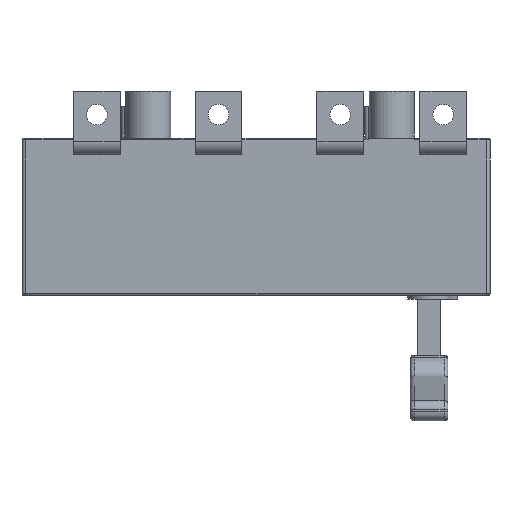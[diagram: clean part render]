
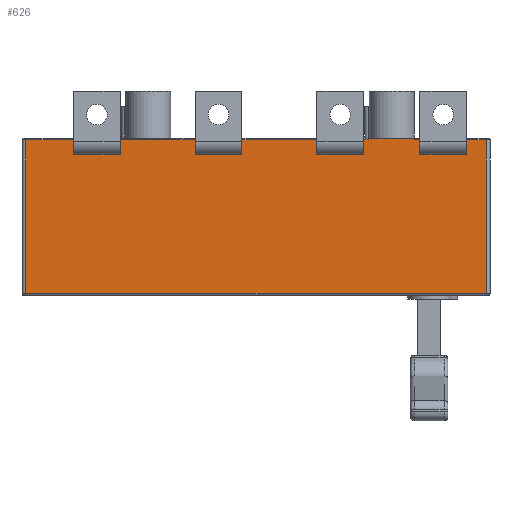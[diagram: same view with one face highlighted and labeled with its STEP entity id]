
A CAD part, front view. The second image highlights one B-rep face of the part: STEP entity #626.
In plain terms, the highlighted planar face has unit normal (0, -1, 0).
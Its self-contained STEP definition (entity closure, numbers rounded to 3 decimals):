
#190=PLANE('',#5526);
#626=ADVANCED_FACE('',(#958),#190,.T.);
#958=FACE_OUTER_BOUND('',#1321,.T.);
#1321=EDGE_LOOP('',(#2874,#2875,#2876,#2877,#2878,#2879,#2880,#2881,#2882,
#2883,#2884,#2885,#2886,#2887,#2888,#2889,#2890,#2891,#2892,#2893,#2894,
#2895,#2896,#2897,#2898,#2899,#2900,#2901,#2902,#2903,#2904,#2905,#2906,
#2907));
#2874=ORIENTED_EDGE('',*,*,#4133,.T.);
#2875=ORIENTED_EDGE('',*,*,#3858,.T.);
#2876=ORIENTED_EDGE('',*,*,#3619,.F.);
#2877=ORIENTED_EDGE('',*,*,#4125,.T.);
#2878=ORIENTED_EDGE('',*,*,#3949,.F.);
#2879=ORIENTED_EDGE('',*,*,#3939,.T.);
#2880=ORIENTED_EDGE('',*,*,#3948,.T.);
#2881=ORIENTED_EDGE('',*,*,#4104,.T.);
#2882=ORIENTED_EDGE('',*,*,#3489,.F.);
#2883=ORIENTED_EDGE('',*,*,#3874,.F.);
#2884=ORIENTED_EDGE('',*,*,#4134,.T.);
#2885=ORIENTED_EDGE('',*,*,#3875,.T.);
#2886=ORIENTED_EDGE('',*,*,#3487,.F.);
#2887=ORIENTED_EDGE('',*,*,#4105,.T.);
#2888=ORIENTED_EDGE('',*,*,#4075,.T.);
#2889=ORIENTED_EDGE('',*,*,#4068,.F.);
#2890=ORIENTED_EDGE('',*,*,#4004,.F.);
#2891=ORIENTED_EDGE('',*,*,#4089,.T.);
#2892=ORIENTED_EDGE('',*,*,#4017,.T.);
#2893=ORIENTED_EDGE('',*,*,#4119,.T.);
#2894=ORIENTED_EDGE('',*,*,#3529,.T.);
#2895=ORIENTED_EDGE('',*,*,#4135,.F.);
#2896=ORIENTED_EDGE('',*,*,#3866,.T.);
#2897=ORIENTED_EDGE('',*,*,#4136,.T.);
#2898=ORIENTED_EDGE('',*,*,#3533,.T.);
#2899=ORIENTED_EDGE('',*,*,#4121,.T.);
#2900=ORIENTED_EDGE('',*,*,#3572,.F.);
#2901=ORIENTED_EDGE('',*,*,#3861,.F.);
#2902=ORIENTED_EDGE('',*,*,#4137,.T.);
#2903=ORIENTED_EDGE('',*,*,#3862,.T.);
#2904=ORIENTED_EDGE('',*,*,#3576,.F.);
#2905=ORIENTED_EDGE('',*,*,#4123,.T.);
#2906=ORIENTED_EDGE('',*,*,#3615,.F.);
#2907=ORIENTED_EDGE('',*,*,#3857,.F.);
#2998=VERTEX_POINT('',#7082);
#3001=VERTEX_POINT('',#7088);
#3021=VERTEX_POINT('',#7149);
#3023=VERTEX_POINT('',#7155);
#3029=VERTEX_POINT('',#7169);
#3031=VERTEX_POINT('',#7173);
#3053=VERTEX_POINT('',#7238);
#3055=VERTEX_POINT('',#7244);
#3061=VERTEX_POINT('',#7258);
#3064=VERTEX_POINT('',#7264);
#3085=VERTEX_POINT('',#7327);
#3087=VERTEX_POINT('',#7333);
#3093=VERTEX_POINT('',#7347);
#3096=VERTEX_POINT('',#7353);
#3117=VERTEX_POINT('',#7416);
#3119=VERTEX_POINT('',#7422);
#3273=VERTEX_POINT('',#7926);
#3274=VERTEX_POINT('',#7930);
#3275=VERTEX_POINT('',#7934);
#3276=VERTEX_POINT('',#7938);
#3277=VERTEX_POINT('',#7942);
#3278=VERTEX_POINT('',#7944);
#3283=VERTEX_POINT('',#7960);
#3284=VERTEX_POINT('',#7964);
#3310=VERTEX_POINT('',#8035);
#3317=VERTEX_POINT('',#8070);
#3327=VERTEX_POINT('',#8097);
#3331=VERTEX_POINT('',#8139);
#3380=VERTEX_POINT('',#8287);
#3381=VERTEX_POINT('',#8289);
#3388=VERTEX_POINT('',#8319);
#3391=VERTEX_POINT('',#8336);
#3426=VERTEX_POINT('',#8438);
#3429=VERTEX_POINT('',#8450);
#3487=EDGE_CURVE('',#3021,#3001,#4171,.T.);
#3489=EDGE_CURVE('',#2998,#3023,#4173,.T.);
#3529=EDGE_CURVE('',#3053,#3029,#4202,.T.);
#3533=EDGE_CURVE('',#3031,#3055,#4204,.T.);
#3572=EDGE_CURVE('',#3061,#3085,#4233,.T.);
#3576=EDGE_CURVE('',#3087,#3064,#4235,.T.);
#3615=EDGE_CURVE('',#3093,#3117,#4264,.T.);
#3619=EDGE_CURVE('',#3119,#3096,#4266,.T.);
#3857=EDGE_CURVE('',#3273,#3093,#4393,.T.);
#3858=EDGE_CURVE('',#3274,#3096,#4394,.T.);
#3861=EDGE_CURVE('',#3275,#3061,#4397,.T.);
#3862=EDGE_CURVE('',#3276,#3064,#4398,.T.);
#3866=EDGE_CURVE('',#3277,#3278,#4402,.T.);
#3874=EDGE_CURVE('',#3283,#2998,#4408,.T.);
#3875=EDGE_CURVE('',#3284,#3001,#4409,.T.);
#3939=EDGE_CURVE('',#3331,#3327,#4434,.T.);
#3948=EDGE_CURVE('',#3327,#3310,#4439,.T.);
#3949=EDGE_CURVE('',#3331,#3317,#4440,.T.);
#4004=EDGE_CURVE('',#3380,#3381,#4464,.T.);
#4017=EDGE_CURVE('',#3388,#3391,#4471,.T.);
#4068=EDGE_CURVE('',#3381,#3426,#4503,.T.);
#4075=EDGE_CURVE('',#3429,#3426,#4509,.T.);
#4089=EDGE_CURVE('',#3380,#3388,#4520,.T.);
#4104=EDGE_CURVE('',#3310,#3023,#4533,.T.);
#4105=EDGE_CURVE('',#3021,#3429,#4534,.T.);
#4119=EDGE_CURVE('',#3391,#3053,#4544,.T.);
#4121=EDGE_CURVE('',#3055,#3085,#4546,.T.);
#4123=EDGE_CURVE('',#3087,#3117,#4548,.T.);
#4125=EDGE_CURVE('',#3119,#3317,#4550,.T.);
#4133=EDGE_CURVE('',#3273,#3274,#4558,.T.);
#4134=EDGE_CURVE('',#3283,#3284,#4559,.T.);
#4135=EDGE_CURVE('',#3277,#3029,#4560,.T.);
#4136=EDGE_CURVE('',#3278,#3031,#4561,.T.);
#4137=EDGE_CURVE('',#3275,#3276,#4562,.T.);
#4171=LINE('',#7150,#4596);
#4173=LINE('',#7154,#4598);
#4202=LINE('',#7237,#4627);
#4204=LINE('',#7245,#4629);
#4233=LINE('',#7326,#4658);
#4235=LINE('',#7334,#4660);
#4264=LINE('',#7415,#4689);
#4266=LINE('',#7423,#4691);
#4393=LINE('',#7927,#4818);
#4394=LINE('',#7929,#4819);
#4397=LINE('',#7935,#4822);
#4398=LINE('',#7937,#4823);
#4402=LINE('',#7945,#4827);
#4408=LINE('',#7961,#4833);
#4409=LINE('',#7963,#4834);
#4434=LINE('',#8142,#4859);
#4439=LINE('',#8159,#4864);
#4440=LINE('',#8161,#4865);
#4464=LINE('',#8288,#4889);
#4471=LINE('',#8337,#4896);
#4503=LINE('',#8437,#4928);
#4509=LINE('',#8449,#4934);
#4520=LINE('',#8476,#4945);
#4533=LINE('',#8508,#4958);
#4534=LINE('',#8510,#4959);
#4544=LINE('',#8537,#4969);
#4546=LINE('',#8540,#4971);
#4548=LINE('',#8543,#4973);
#4550=LINE('',#8546,#4975);
#4558=LINE('',#8556,#4983);
#4559=LINE('',#8557,#4984);
#4560=LINE('',#8558,#4985);
#4561=LINE('',#8559,#4986);
#4562=LINE('',#8560,#4987);
#4596=VECTOR('',#5619,1.);
#4598=VECTOR('',#5623,1.);
#4627=VECTOR('',#5700,1.);
#4629=VECTOR('',#5708,1.);
#4658=VECTOR('',#5783,1.);
#4660=VECTOR('',#5791,1.);
#4689=VECTOR('',#5866,1.);
#4691=VECTOR('',#5874,1.);
#4818=VECTOR('',#6423,1.);
#4819=VECTOR('',#6426,1.);
#4822=VECTOR('',#6431,1.);
#4823=VECTOR('',#6434,1.);
#4827=VECTOR('',#6440,1.);
#4833=VECTOR('',#6456,1.);
#4834=VECTOR('',#6459,1.);
#4859=VECTOR('',#6598,1.);
#4864=VECTOR('',#6621,1.);
#4865=VECTOR('',#6624,1.);
#4889=VECTOR('',#6764,1.);
#4896=VECTOR('',#6785,1.);
#4928=VECTOR('',#6885,1.);
#4934=VECTOR('',#6897,1.);
#4945=VECTOR('',#6924,1.);
#4958=VECTOR('',#6969,1.);
#4959=VECTOR('',#6972,1.);
#4969=VECTOR('',#7000,1.);
#4971=VECTOR('',#7004,1.);
#4973=VECTOR('',#7008,1.);
#4975=VECTOR('',#7012,1.);
#4983=VECTOR('',#7024,1.);
#4984=VECTOR('',#7025,1.);
#4985=VECTOR('',#7026,1.);
#4986=VECTOR('',#7027,1.);
#4987=VECTOR('',#7028,1.);
#5526=AXIS2_PLACEMENT_3D('',#8561,#7029,#7030);
#5619=DIRECTION('',(0.,0.,-1.));
#5623=DIRECTION('',(0.,0.,1.));
#5700=DIRECTION('',(0.,0.,-1.));
#5708=DIRECTION('',(0.,0.,1.));
#5783=DIRECTION('',(0.,0.,1.));
#5791=DIRECTION('',(0.,0.,-1.));
#5866=DIRECTION('',(0.,0.,1.));
#5874=DIRECTION('',(0.,0.,-1.));
#6423=DIRECTION('',(0.,0.,1.));
#6426=DIRECTION('',(0.,0.,1.));
#6431=DIRECTION('',(0.,0.,1.));
#6434=DIRECTION('',(0.,0.,1.));
#6440=DIRECTION('',(-1.,0.,0.));
#6456=DIRECTION('',(0.,0.,1.));
#6459=DIRECTION('',(0.,0.,1.));
#6598=DIRECTION('',(1.,0.,0.));
#6621=DIRECTION('',(0.,0.,1.));
#6624=DIRECTION('',(0.,0.,1.));
#6764=DIRECTION('',(0.,0.,-1.));
#6785=DIRECTION('',(0.,0.,-1.));
#6885=DIRECTION('',(1.,0.,0.));
#6897=DIRECTION('',(0.,0.,1.));
#6924=DIRECTION('',(-1.,0.,0.));
#6969=DIRECTION('',(-1.,0.,0.));
#6972=DIRECTION('',(-1.,0.,0.));
#7000=DIRECTION('',(-1.,0.,0.));
#7004=DIRECTION('',(-1.,0.,0.));
#7008=DIRECTION('',(-1.,0.,0.));
#7012=DIRECTION('',(-1.,0.,0.));
#7024=DIRECTION('',(-1.,0.,0.));
#7025=DIRECTION('',(-1.,0.,0.));
#7026=DIRECTION('',(0.,0.,1.));
#7027=DIRECTION('',(0.,0.,1.));
#7028=DIRECTION('',(-1.,0.,0.));
#7029=DIRECTION('',(0.,-1.,0.));
#7030=DIRECTION('',(1.,0.,0.));
#7082=CARTESIAN_POINT('',(40.,-52.5,-3.718));
#7088=CARTESIAN_POINT('',(15.,-52.5,-3.718));
#7149=CARTESIAN_POINT('',(15.,-52.5,-1.));
#7150=CARTESIAN_POINT('',(15.,-52.5,4.));
#7154=CARTESIAN_POINT('',(40.,-52.5,4.));
#7155=CARTESIAN_POINT('',(40.,-52.5,-1.));
#7169=CARTESIAN_POINT('',(-15.,-52.5,-3.718));
#7173=CARTESIAN_POINT('',(-40.,-52.5,-3.718));
#7237=CARTESIAN_POINT('',(-15.,-52.5,4.));
#7238=CARTESIAN_POINT('',(-15.,-52.5,-1.));
#7244=CARTESIAN_POINT('',(-40.,-52.5,-1.));
#7245=CARTESIAN_POINT('',(-40.,-52.5,4.));
#7258=CARTESIAN_POINT('',(-80.,-52.5,-3.718));
#7264=CARTESIAN_POINT('',(-105.,-52.5,-3.718));
#7326=CARTESIAN_POINT('',(-80.,-52.5,4.));
#7327=CARTESIAN_POINT('',(-80.,-52.5,-1.));
#7333=CARTESIAN_POINT('',(-105.,-52.5,-1.));
#7334=CARTESIAN_POINT('',(-105.,-52.5,4.));
#7347=CARTESIAN_POINT('',(-145.,-52.5,-3.718));
#7353=CARTESIAN_POINT('',(-170.,-52.5,-3.718));
#7415=CARTESIAN_POINT('',(-145.,-52.5,4.));
#7416=CARTESIAN_POINT('',(-145.,-52.5,-1.));
#7422=CARTESIAN_POINT('',(-170.,-52.5,-1.));
#7423=CARTESIAN_POINT('',(-170.,-52.5,4.));
#7926=CARTESIAN_POINT('',(-145.,-52.5,-9.));
#7927=CARTESIAN_POINT('',(-145.,-52.5,-9.));
#7929=CARTESIAN_POINT('',(-170.,-52.5,-9.));
#7930=CARTESIAN_POINT('',(-170.,-52.5,-9.));
#7934=CARTESIAN_POINT('',(-80.,-52.5,-9.));
#7935=CARTESIAN_POINT('',(-80.,-52.5,-9.));
#7937=CARTESIAN_POINT('',(-105.,-52.5,-9.));
#7938=CARTESIAN_POINT('',(-105.,-52.5,-9.));
#7942=CARTESIAN_POINT('',(-15.,-52.5,-9.));
#7944=CARTESIAN_POINT('',(-40.,-52.5,-9.));
#7945=CARTESIAN_POINT('',(-15.,-52.5,-9.));
#7960=CARTESIAN_POINT('',(40.,-52.5,-9.));
#7961=CARTESIAN_POINT('',(40.,-52.5,-9.));
#7963=CARTESIAN_POINT('',(15.,-52.5,-9.));
#7964=CARTESIAN_POINT('',(15.,-52.5,-9.));
#8035=CARTESIAN_POINT('',(50.5,-52.5,-1.));
#8070=CARTESIAN_POINT('',(-195.5,-52.5,-1.));
#8097=CARTESIAN_POINT('',(50.5,-52.5,-83.));
#8139=CARTESIAN_POINT('',(-195.5,-52.5,-83.));
#8142=CARTESIAN_POINT('',(-12.,-52.5,-83.));
#8159=CARTESIAN_POINT('',(50.5,-52.5,-84.));
#8161=CARTESIAN_POINT('',(-195.5,-52.5,-84.));
#8287=CARTESIAN_POINT('',(-12.,-52.5,17.));
#8288=CARTESIAN_POINT('',(-12.,-52.5,25.));
#8289=CARTESIAN_POINT('',(-12.,-52.5,0.));
#8319=CARTESIAN_POINT('',(-12.5,-52.5,17.));
#8336=CARTESIAN_POINT('',(-12.5,-52.5,-1.));
#8337=CARTESIAN_POINT('',(-12.5,-52.5,4.));
#8437=CARTESIAN_POINT('',(50.5,-52.5,0.));
#8438=CARTESIAN_POINT('',(12.,-52.5,0.));
#8449=CARTESIAN_POINT('',(12.,-52.5,4.));
#8450=CARTESIAN_POINT('',(12.,-52.5,-1.));
#8476=CARTESIAN_POINT('',(7.5,-52.5,17.));
#8508=CARTESIAN_POINT('',(12.,-52.5,-1.));
#8510=CARTESIAN_POINT('',(12.,-52.5,-1.));
#8537=CARTESIAN_POINT('',(-195.5,-52.5,-1.));
#8540=CARTESIAN_POINT('',(-195.5,-52.5,-1.));
#8543=CARTESIAN_POINT('',(-195.5,-52.5,-1.));
#8546=CARTESIAN_POINT('',(-195.5,-52.5,-1.));
#8556=CARTESIAN_POINT('',(-145.,-52.5,-9.));
#8557=CARTESIAN_POINT('',(40.,-52.5,-9.));
#8558=CARTESIAN_POINT('',(-15.,-52.5,-9.));
#8559=CARTESIAN_POINT('',(-40.,-52.5,-9.));
#8560=CARTESIAN_POINT('',(-80.,-52.5,-9.));
#8561=CARTESIAN_POINT('',(-12.,-52.5,4.));
